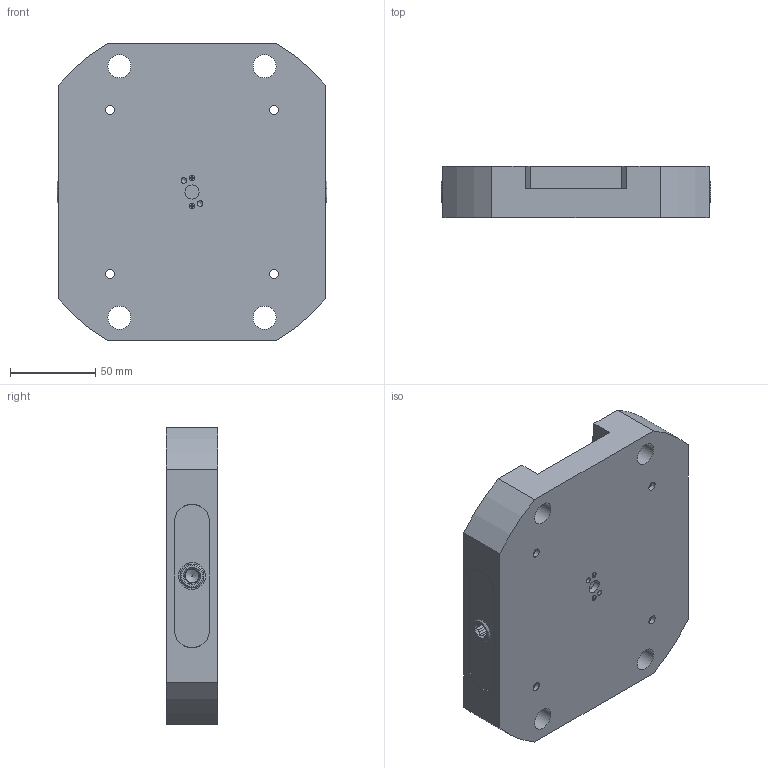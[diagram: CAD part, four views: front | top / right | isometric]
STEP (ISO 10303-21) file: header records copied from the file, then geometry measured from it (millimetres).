
FILE_DESCRIPTION (( 'STEP AP214' ), '1' );
FILE_NAME ('RL96S-6760_WEBSITE.STEP', '2025-08-11T11:26:15', ( '' ), ( '' ), 'SwSTEP 2.0', 'SolidWorks 2025', '' );
FILE_SCHEMA (( 'AUTOMOTIVE_DESIGN' ));
Length unit declared in the file: inch
Products named in the file (10): 9452K183-Base-O-Ring_WEBSITE; D_RL96-3_WEBSITE; 9452K121-Truck-O-Ring_WEBSITE; D_HW27X20.DB_WEBSITE; D_SB54_WEBSITE_FINISHED PART; D_RL96-2R_WEBSITE; D_RL96-16760S_WEBSITE; 9750K730_PLASTIC ROUND PLUG_WEBSITE_9750K73; D_RL96-2L_WEBSITE; RL96S-6760_WEBSITE
Assembly tree (16 placements, depth 2):
  9750K730_PLASTIC ROUND PLUG_WEBSITE_9750K73
  RL96S-6760_WEBSITE
    D_RL96-16760S_WEBSITE
    D_RL96-2L_WEBSITE
    D_RL96-2R_WEBSITE
    D_RL96-3_WEBSITE
    D_HW27X20.DB_WEBSITE  x4
    D_SB54_WEBSITE_FINISHED PART  x2
    9452K183-Base-O-Ring_WEBSITE  x4
    9452K121-Truck-O-Ring_WEBSITE  x2
Bounding box: 158 x 30 x 174 mm (x, y, z)
Volume: 631998.2 mm3; surface area: 138168.7 mm2
Topology: 18 solids, 18 shells, 300 faces, 678 edges, 426 vertices
Faces by surface type: plane 173, cylinder 95, cone 20, torus 10, bspline 2
Full cylindrical faces by diameter (mm): 0.127 x2, 2.5 x2, 3.3 x4, 4 x2, 4.7 x2, 5 x2, 5.182 x6, 8.204 x2, 8.26 x1, 9 x2, 9.525 x2, 10.795 x1, 11.938 x4, 12.573 x4, 13.492 x4, 14 x2, 15.748 x2, 19.05 x2, 19.101 x4, 19.99 x1, 20.015 x4, 20.035 x4, 20.638 x4, 26.972 x4, 26.993 x4, 27.051 x4
Entity records: 9182 total; most frequent: CARTESIAN_POINT 3249, DIRECTION 1182, ORIENTED_EDGE 960, EDGE_CURVE 480, AXIS2_PLACEMENT_3D 477, EDGE_LOOP 394, VERTEX_POINT 346, FACE_OUTER_BOUND 317
